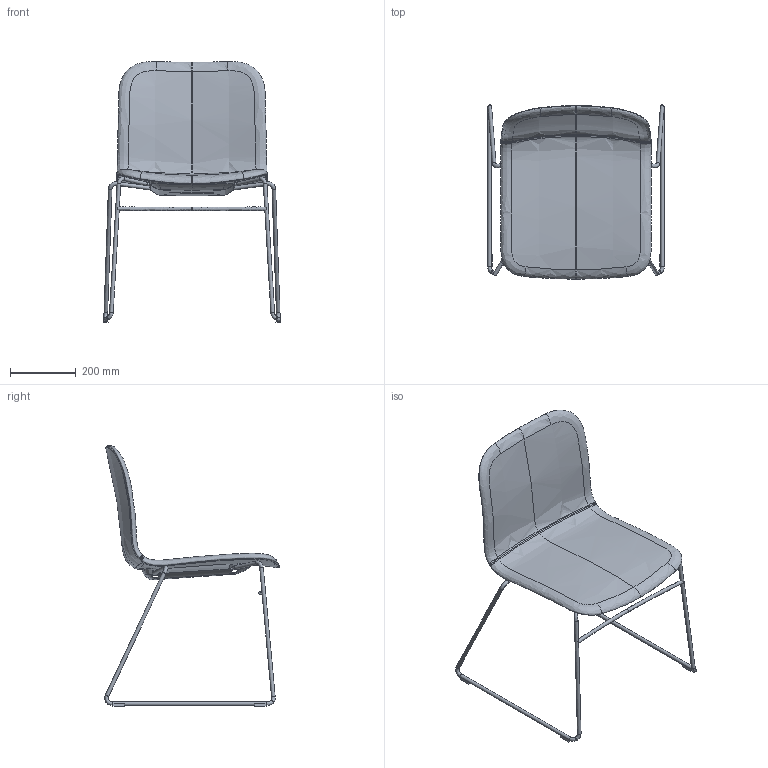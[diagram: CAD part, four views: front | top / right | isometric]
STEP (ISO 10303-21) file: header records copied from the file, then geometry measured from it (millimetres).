
FILE_DESCRIPTION(/* description */ (''),/* implementation_level */ '2;1');
FILE_NAME(/* name */ 'Lambda LA4004-070',/* time_stamp */ '2024-03-04T14:55:23+01:00',/* author */ (''),/* organization */ (''),/* preprocessor_version */ 'ST-DEVELOPER v16.5',/* originating_system */ 'Rhino 7.35',/* authorisation */ '');
FILE_SCHEMA (('CONFIG_CONTROL_DESIGN'));
Length unit declared in the file: millimetre
Products named in the file (1): Document
Bounding box: 543 x 532.5 x 796.72 mm (x, y, z)
Volume: 22149.6 mm3; surface area: 1021706.5 mm2
Topology: 8 solids, 17 shells, 934 faces, 2451 edges, 1624 vertices
Faces by surface type: plane 450, bspline 376, cylinder 108
Full cylindrical faces by diameter (mm): 11 x18
Entity records: 86050 total; most frequent: CARTESIAN_POINT 69711, ORIENTED_EDGE 4832, EDGE_CURVE 2448, B_SPLINE_CURVE_WITH_KNOTS 2323, VERTEX_POINT 1618, EDGE_LOOP 1019, ADVANCED_FACE 934, FACE_OUTER_BOUND 934
